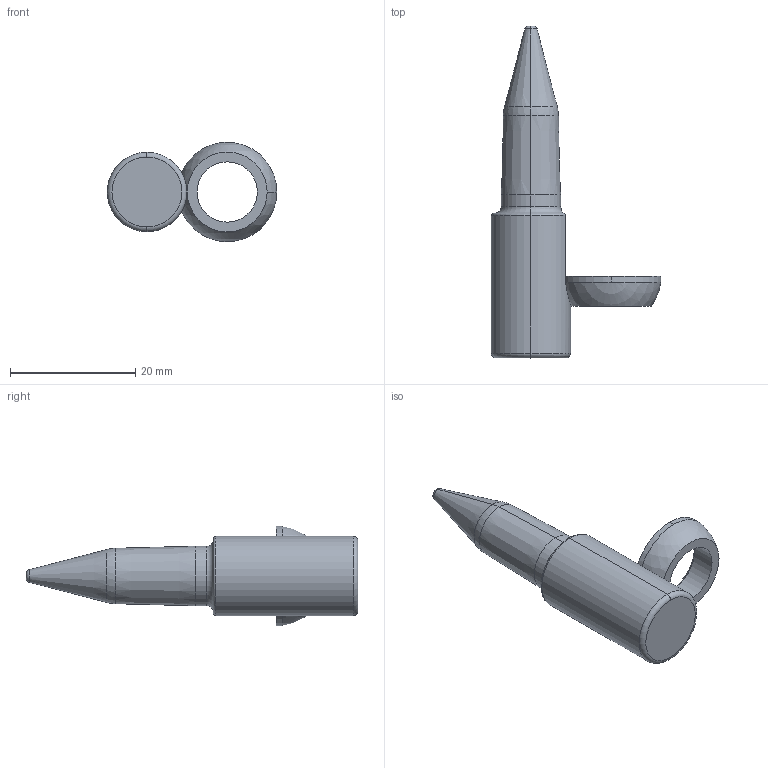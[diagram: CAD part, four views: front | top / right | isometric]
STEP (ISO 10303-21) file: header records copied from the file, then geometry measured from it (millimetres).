
FILE_DESCRIPTION (( 'STEP AP214' ), '1' );
FILE_NAME ('PA-T-.375-.075-0.5-3-A-F1.STEP', '2019-05-08T17:32:53', ( '' ), ( '' ), 'SwSTEP 2.0', 'SolidWorks 2017', '' );
FILE_SCHEMA (( 'AUTOMOTIVE_DESIGN' ));
Length unit declared in the file: inch
Products named in the file (3): PA-T-.375-.075-0.5-3-A-F1; SLPilot-PA-T-E_PA-T-.375-.075-0.5-3-A-F1; SLRadiusWasher_RadiusWasher-E
Assembly tree (2 placements, depth 2):
  PA-T-.375-.075-0.5-3-A-F1
    SLPilot-PA-T-E_PA-T-.375-.075-0.5-3-A-F1
    SLRadiusWasher_RadiusWasher-E
Bounding box: 27.11 x 53.04 x 15.88 mm (x, y, z)
Volume: 4762.9 mm3; surface area: 2326.1 mm2
Topology: 2 solids, 2 shells, 35 faces, 77 edges, 46 vertices
Faces by surface type: torus 11, cylinder 9, cone 6, plane 5, sphere 4
Entity records: 1162 total; most frequent: CARTESIAN_POINT 228, DIRECTION 208, ORIENTED_EDGE 154, AXIS2_PLACEMENT_3D 96, EDGE_CURVE 77, CIRCLE 56, VERTEX_POINT 46, EDGE_LOOP 37
